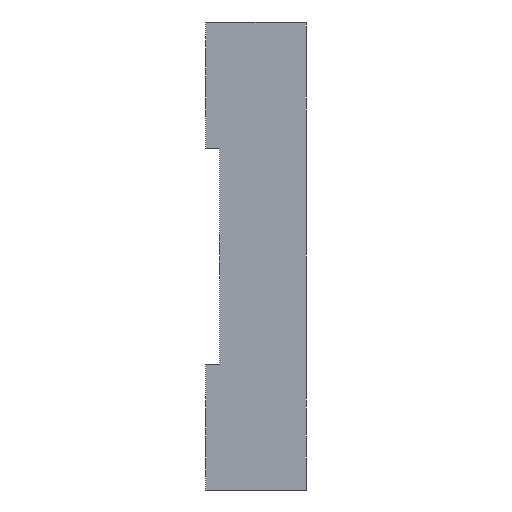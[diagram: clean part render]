
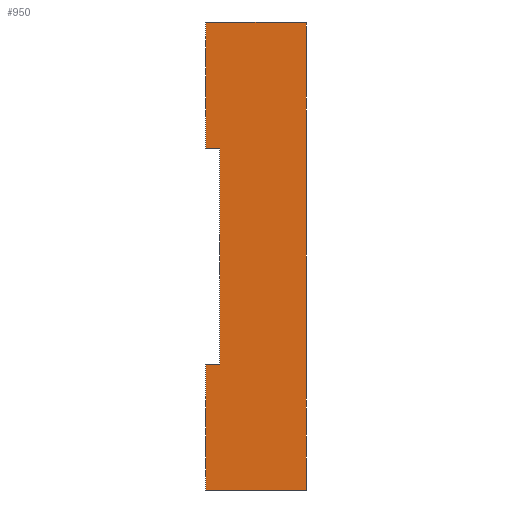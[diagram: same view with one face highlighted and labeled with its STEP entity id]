
A CAD part, left-side view. The second image highlights one B-rep face of the part: STEP entity #950.
In plain terms, the highlighted planar face has unit normal (-1, 0, 0).
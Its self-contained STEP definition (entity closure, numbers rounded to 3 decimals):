
#14 = DIRECTION ( 'NONE',  ( 0., 0., 1. ) ) ;
#15 = CARTESIAN_POINT ( 'NONE',  ( -47., 0., -32.5 ) ) ;
#16 = CARTESIAN_POINT ( 'NONE',  ( -47., 12., 32.5 ) ) ;
#17 = DIRECTION ( 'NONE',  ( 0., -1., 0. ) ) ;
#26 = CARTESIAN_POINT ( 'NONE',  ( -47., 14., 32.5 ) ) ;
#27 = DIRECTION ( 'NONE',  ( 0., 0., 1. ) ) ;
#28 = CARTESIAN_POINT ( 'NONE',  ( -47., 14., 15. ) ) ;
#29 = DIRECTION ( 'NONE',  ( 0., -1., 0. ) ) ;
#30 = CARTESIAN_POINT ( 'NONE',  ( -47., 14., -15. ) ) ;
#31 = DIRECTION ( 'NONE',  ( 0., -1., 0. ) ) ;
#32 = CARTESIAN_POINT ( 'NONE',  ( -47., 14., -32.5 ) ) ;
#33 = DIRECTION ( 'NONE',  ( 0., 0., 1. ) ) ;
#34 = CARTESIAN_POINT ( 'NONE',  ( -47., 12., -32.5 ) ) ;
#35 = DIRECTION ( 'NONE',  ( 0., -1., 0. ) ) ;
#229 = ORIENTED_EDGE ( 'NONE', *, *, #2399, .F. ) ;
#244 = ORIENTED_EDGE ( 'NONE', *, *, #2401, .T. ) ;
#245 = ORIENTED_EDGE ( 'NONE', *, *, #2404, .T. ) ;
#251 = ORIENTED_EDGE ( 'NONE', *, *, #2396, .T. ) ;
#390 = ORIENTED_EDGE ( 'NONE', *, *, #2402, .F. ) ;
#391 = ORIENTED_EDGE ( 'NONE', *, *, #800, .F. ) ;
#393 = ORIENTED_EDGE ( 'NONE', *, *, #2400, .F. ) ;
#576 = CARTESIAN_POINT ( 'NONE',  ( -47., 12., -32.5 ) ) ;
#585 = DIRECTION ( 'NONE',  ( 0., 0., 1. ) ) ;
#800 = EDGE_CURVE ( 'NONE', #1724, #1729, #1321, .T. ) ;
#950 = ADVANCED_FACE ( 'NONE', ( #1013 ), #1938, .F. ) ;
#1013 = FACE_OUTER_BOUND ( 'NONE', #1647, .T. ) ;
#1061 = VECTOR ( 'NONE', #14, 1000. ) ;
#1067 = LINE ( 'NONE', #15, #1061 ) ;
#1069 = LINE ( 'NONE', #16, #1073 ) ;
#1072 = LINE ( 'NONE', #26, #1078 ) ;
#1073 = VECTOR ( 'NONE', #17, 1000. ) ;
#1077 = LINE ( 'NONE', #28, #1080 ) ;
#1078 = VECTOR ( 'NONE', #27, 1000. ) ;
#1079 = LINE ( 'NONE', #30, #1082 ) ;
#1080 = VECTOR ( 'NONE', #29, 1000. ) ;
#1081 = LINE ( 'NONE', #32, #1084 ) ;
#1082 = VECTOR ( 'NONE', #31, 1000. ) ;
#1083 = LINE ( 'NONE', #34, #1086 ) ;
#1084 = VECTOR ( 'NONE', #33, 1000. ) ;
#1086 = VECTOR ( 'NONE', #35, 1000. ) ;
#1321 = LINE ( 'NONE', #576, #1338 ) ;
#1338 = VECTOR ( 'NONE', #585, 1000. ) ;
#1524 = AXIS2_PLACEMENT_3D ( 'NONE', #1934, #1940, #1941 ) ;
#1647 = EDGE_LOOP ( 'NONE', ( #251, #229, #393, #244, #391, #390, #1826, #245 ) ) ;
#1685 = VERTEX_POINT ( 'NONE', #2067 ) ;
#1694 = VERTEX_POINT ( 'NONE', #2076 ) ;
#1700 = VERTEX_POINT ( 'NONE', #2082 ) ;
#1707 = VERTEX_POINT ( 'NONE', #2089 ) ;
#1708 = VERTEX_POINT ( 'NONE', #2090 ) ;
#1711 = VERTEX_POINT ( 'NONE', #2093 ) ;
#1724 = VERTEX_POINT ( 'NONE', #2106 ) ;
#1729 = VERTEX_POINT ( 'NONE', #2111 ) ;
#1826 = ORIENTED_EDGE ( 'NONE', *, *, #2403, .F. ) ;
#1934 = CARTESIAN_POINT ( 'NONE',  ( -47., 12., -32.5 ) ) ;
#1938 = PLANE ( 'NONE',  #1524 ) ;
#1940 = DIRECTION ( 'NONE',  ( 1., 0., 0. ) ) ;
#1941 = DIRECTION ( 'NONE',  ( 0., 0., -1. ) ) ;
#2067 = CARTESIAN_POINT ( 'NONE',  ( -47., 0., -32.5 ) ) ;
#2076 = CARTESIAN_POINT ( 'NONE',  ( -47., 0., 32.5 ) ) ;
#2082 = CARTESIAN_POINT ( 'NONE',  ( -47., 14., 32.5 ) ) ;
#2089 = CARTESIAN_POINT ( 'NONE',  ( -47., 14., -15. ) ) ;
#2090 = CARTESIAN_POINT ( 'NONE',  ( -47., 14., 15. ) ) ;
#2093 = CARTESIAN_POINT ( 'NONE',  ( -47., 14., -32.5 ) ) ;
#2106 = CARTESIAN_POINT ( 'NONE',  ( -47., 12., -15. ) ) ;
#2111 = CARTESIAN_POINT ( 'NONE',  ( -47., 12., 15. ) ) ;
#2396 = EDGE_CURVE ( 'NONE', #1685, #1694, #1067, .T. ) ;
#2399 = EDGE_CURVE ( 'NONE', #1700, #1694, #1069, .T. ) ;
#2400 = EDGE_CURVE ( 'NONE', #1708, #1700, #1072, .T. ) ;
#2401 = EDGE_CURVE ( 'NONE', #1708, #1729, #1077, .T. ) ;
#2402 = EDGE_CURVE ( 'NONE', #1707, #1724, #1079, .T. ) ;
#2403 = EDGE_CURVE ( 'NONE', #1711, #1707, #1081, .T. ) ;
#2404 = EDGE_CURVE ( 'NONE', #1711, #1685, #1083, .T. ) ;
